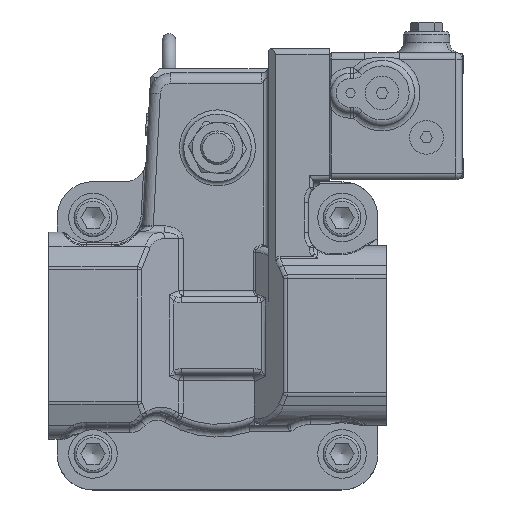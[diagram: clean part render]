
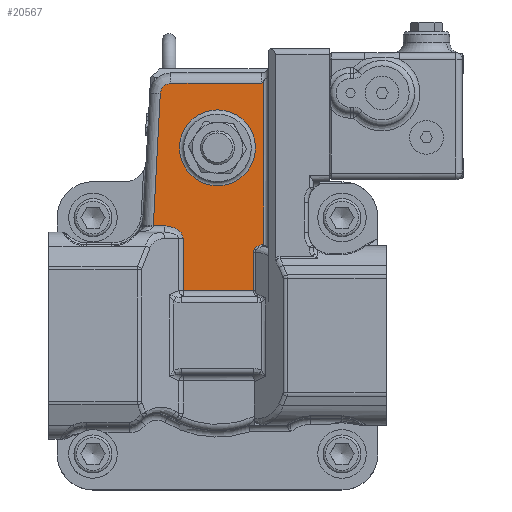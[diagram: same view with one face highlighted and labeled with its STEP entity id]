
A CAD part, top view. The second image highlights one B-rep face of the part: STEP entity #20567.
In plain terms, the highlighted planar face has unit normal (0, 0, 1).
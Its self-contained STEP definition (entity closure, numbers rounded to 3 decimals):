
#17133=CARTESIAN_POINT('',(216.449,215.296,99.401));
#17134=VERTEX_POINT('',#17133);
#17143=CARTESIAN_POINT('',(225.247,209.296,99.401));
#17144=VERTEX_POINT('',#17143);
#17152=CARTESIAN_POINT('',(216.449,209.296,99.401));
#17153=DIRECTION('',(0.0,0.0,1.0));
#17154=DIRECTION('',(1.0,0.0,0.0));
#17155=AXIS2_PLACEMENT_3D('',#17152,#17153,#17154);
#17156=ELLIPSE('',#17155,8.798,6.);
#17157=EDGE_CURVE('',#17144,#17134,#17156,.T.);
#17230=CARTESIAN_POINT('',(211.168,215.296,99.401));
#17231=VERTEX_POINT('',#17230);
#17264=CARTESIAN_POINT('',(214.457,278.058,99.401));
#17265=VERTEX_POINT('',#17264);
#17266=CARTESIAN_POINT('',(211.168,215.296,99.401));
#17267=DIRECTION('',(0.052,0.999,0.0));
#17268=VECTOR('',#17267,62.848);
#17269=LINE('',#17266,#17268);
#17270=EDGE_CURVE('',#17231,#17265,#17269,.T.);
#17324=CARTESIAN_POINT('',(219.45,282.796,99.401));
#17325=VERTEX_POINT('',#17324);
#17326=CARTESIAN_POINT('',(219.45,277.796,99.401));
#17327=DIRECTION('',(0.,0.,-1.0));
#17328=DIRECTION('',(-0.688,0.725,0.));
#17329=AXIS2_PLACEMENT_3D('',#17326,#17327,#17328);
#17330=CIRCLE('',#17329,5.0);
#17331=EDGE_CURVE('',#17265,#17325,#17330,.T.);
#17380=CARTESIAN_POINT('',(262.565,282.796,99.401));
#17381=VERTEX_POINT('',#17380);
#17391=CARTESIAN_POINT('',(219.45,282.796,99.401));
#17392=DIRECTION('',(1.0,0.0,0.0));
#17393=VECTOR('',#17392,43.115);
#17394=LINE('',#17391,#17393);
#17395=EDGE_CURVE('',#17325,#17381,#17394,.T.);
#17405=CARTESIAN_POINT('',(263.565,284.117,99.401));
#17406=VERTEX_POINT('',#17405);
#17407=CARTESIAN_POINT('',(262.565,282.796,99.401));
#17408=CARTESIAN_POINT('',(262.886,283.21,99.401));
#17409=CARTESIAN_POINT('',(263.231,283.655,99.401));
#17410=CARTESIAN_POINT('',(263.565,284.117,99.401));
#17411=B_SPLINE_CURVE_WITH_KNOTS('',3,(#17407,#17408,#17409,#17410),.UNSPECIFIED.,.F.,.U.,(4,4),(0.0,0.157),.UNSPECIFIED.);
#17412=EDGE_CURVE('',#17381,#17406,#17411,.T.);
#17612=CARTESIAN_POINT('',(225.247,184.65,99.401));
#17613=VERTEX_POINT('',#17612);
#17623=CARTESIAN_POINT('',(225.247,184.65,99.401));
#17624=DIRECTION('',(0.0,1.0,0.0));
#17625=VECTOR('',#17624,24.646);
#17626=LINE('',#17623,#17625);
#17627=EDGE_CURVE('',#17613,#17144,#17626,.T.);
#17669=CARTESIAN_POINT('',(258.682,184.65,99.401));
#17670=VERTEX_POINT('',#17669);
#17680=CARTESIAN_POINT('',(258.682,184.65,99.401));
#17681=DIRECTION('',(-1.0,0.0,0.0));
#17682=VECTOR('',#17681,33.434);
#17683=LINE('',#17680,#17682);
#17684=EDGE_CURVE('',#17670,#17613,#17683,.T.);
#17814=CARTESIAN_POINT('',(263.565,206.213,99.401));
#17815=VERTEX_POINT('',#17814);
#17823=CARTESIAN_POINT('',(263.046,206.442,99.401));
#17824=VERTEX_POINT('',#17823);
#17825=CARTESIAN_POINT('',(263.565,206.213,99.402));
#17826=CARTESIAN_POINT('',(263.484,206.251,99.402));
#17827=CARTESIAN_POINT('',(263.402,206.288,99.402));
#17828=CARTESIAN_POINT('',(263.32,206.324,99.402));
#17829=CARTESIAN_POINT('',(263.229,206.364,99.402));
#17830=CARTESIAN_POINT('',(263.138,206.404,99.401));
#17831=CARTESIAN_POINT('',(263.046,206.442,99.401));
#17832=B_SPLINE_CURVE_WITH_KNOTS('',3,(#17825,#17826,#17827,#17828,#17829,#17830,#17831),.UNSPECIFIED.,.F.,.U.,(4,3,4),(-0.056,-0.029,0.001),.UNSPECIFIED.);
#17833=EDGE_CURVE('',#17815,#17824,#17832,.T.);
#17885=CARTESIAN_POINT('',(262.565,206.378,99.401));
#17886=VERTEX_POINT('',#17885);
#17887=CARTESIAN_POINT('',(263.046,206.442,99.401));
#17888=CARTESIAN_POINT('',(262.885,206.426,99.401));
#17889=CARTESIAN_POINT('',(262.725,206.405,99.401));
#17890=CARTESIAN_POINT('',(262.565,206.378,99.401));
#17891=B_SPLINE_CURVE_WITH_KNOTS('',3,(#17887,#17888,#17889,#17890),.UNSPECIFIED.,.F.,.U.,(4,4),(-0.619,-0.57),.UNSPECIFIED.);
#17892=EDGE_CURVE('',#17824,#17886,#17891,.T.);
#17894=CARTESIAN_POINT('',(258.682,202.796,99.401));
#17895=VERTEX_POINT('',#17894);
#17896=CARTESIAN_POINT('',(262.565,206.378,99.401));
#17897=CARTESIAN_POINT('',(261.85,206.255,99.401));
#17898=CARTESIAN_POINT('',(260.59,205.822,99.401));
#17899=CARTESIAN_POINT('',(259.105,204.549,99.401));
#17900=CARTESIAN_POINT('',(258.682,203.385,99.401));
#17901=CARTESIAN_POINT('',(258.682,202.796,99.401));
#17902=B_SPLINE_CURVE_WITH_KNOTS('',3,(#17896,#17897,#17898,#17899,#17900,#17901),.UNSPECIFIED.,.F.,.U.,(4,1,1,4),(-0.57,-0.354,-0.177,0.0),.UNSPECIFIED.);
#17903=EDGE_CURVE('',#17886,#17895,#17902,.T.);
#17922=CARTESIAN_POINT('',(258.682,202.796,99.401));
#17923=DIRECTION('',(0.0,-1.0,0.0));
#17924=VECTOR('',#17923,18.145);
#17925=LINE('',#17922,#17924);
#17926=EDGE_CURVE('',#17895,#17670,#17925,.T.);
#19299=CARTESIAN_POINT('',(216.449,215.296,99.401));
#19300=DIRECTION('',(-1.0,0.0,0.0));
#19301=VECTOR('',#19300,5.282);
#19302=LINE('',#19299,#19301);
#19303=EDGE_CURVE('',#17134,#17231,#19302,.T.);
#20033=CARTESIAN_POINT('',(259.565,252.296,99.401));
#20034=VERTEX_POINT('',#20033);
#20035=CARTESIAN_POINT('',(241.565,252.296,99.401));
#20036=DIRECTION('',(0.0,0.0,1.0));
#20037=DIRECTION('',(-1.0,0.0,0.0));
#20038=AXIS2_PLACEMENT_3D('',#20035,#20036,#20037);
#20039=CIRCLE('',#20038,18.0);
#20040=EDGE_CURVE('',#20034,#20034,#20039,.T.);
#20539=CARTESIAN_POINT('',(239.304,205.562,99.401));
#20540=DIRECTION('',(0.0,0.0,1.0));
#20541=DIRECTION('',(1.0,0.0,0.0));
#20542=AXIS2_PLACEMENT_3D('',#20539,#20540,#20541);
#20543=PLANE('',#20542);
#20544=CARTESIAN_POINT('',(263.565,284.117,99.401));
#20545=DIRECTION('',(0.0,-1.0,0.0));
#20546=VECTOR('',#20545,77.904);
#20547=LINE('',#20544,#20546);
#20548=EDGE_CURVE('',#17406,#17815,#20547,.T.);
#20549=ORIENTED_EDGE('',*,*,#20548,.F.);
#20550=ORIENTED_EDGE('',*,*,#17412,.F.);
#20551=ORIENTED_EDGE('',*,*,#17395,.F.);
#20552=ORIENTED_EDGE('',*,*,#17331,.F.);
#20553=ORIENTED_EDGE('',*,*,#17270,.F.);
#20554=ORIENTED_EDGE('',*,*,#19303,.F.);
#20555=ORIENTED_EDGE('',*,*,#17157,.F.);
#20556=ORIENTED_EDGE('',*,*,#17627,.F.);
#20557=ORIENTED_EDGE('',*,*,#17684,.F.);
#20558=ORIENTED_EDGE('',*,*,#17926,.F.);
#20559=ORIENTED_EDGE('',*,*,#17903,.F.);
#20560=ORIENTED_EDGE('',*,*,#17892,.F.);
#20561=ORIENTED_EDGE('',*,*,#17833,.F.);
#20562=EDGE_LOOP('',(#20549,#20550,#20551,#20552,#20553,#20554,#20555,#20556,#20557,#20558,#20559,#20560,#20561));
#20563=FACE_OUTER_BOUND('',#20562,.T.);
#20564=ORIENTED_EDGE('',*,*,#20040,.F.);
#20565=EDGE_LOOP('',(#20564));
#20566=FACE_BOUND('',#20565,.T.);
#20567=ADVANCED_FACE('',(#20563,#20566),#20543,.T.);
